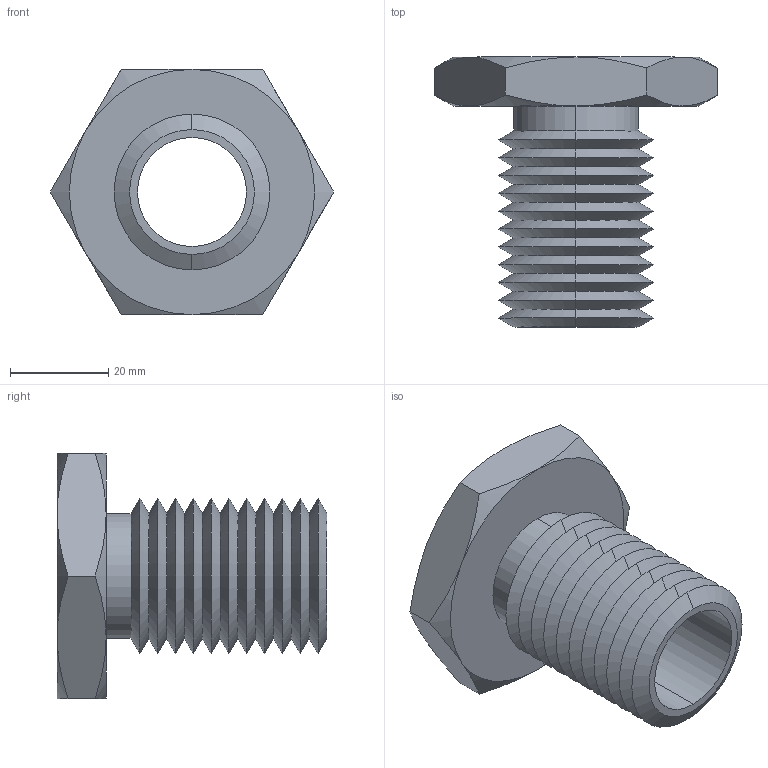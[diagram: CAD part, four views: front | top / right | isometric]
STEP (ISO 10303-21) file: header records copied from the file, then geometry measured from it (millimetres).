
FILE_DESCRIPTION (( 'STEP AP203' ), '1' );
FILE_NAME ('63302.W5125_0,87 UNC-9.step', '2013-12-08T12:00:17', ( 'User' ), ( '' ), 'SwSTEP 2.0', 'SolidWorks 2009', '' );
FILE_SCHEMA (( 'CONFIG_CONTROL_DESIGN' ));
Length unit declared in the file: millimetre
Products named in the file (1): 63302.W5125_0,87 UNC-9
Bounding box: 57.73 x 55 x 50 mm (x, y, z)
Volume: 28079.1 mm3; surface area: 16401.5 mm2
Topology: 1 solids, 1 shells, 71 faces, 146 edges, 78 vertices
Faces by surface type: cone 58, plane 9, cylinder 4
Entity records: 2039 total; most frequent: CARTESIAN_POINT 480, DIRECTION 332, ORIENTED_EDGE 292, EDGE_CURVE 146, AXIS2_PLACEMENT_3D 138, VERTEX_POINT 78, EDGE_LOOP 74, ADVANCED_FACE 71
